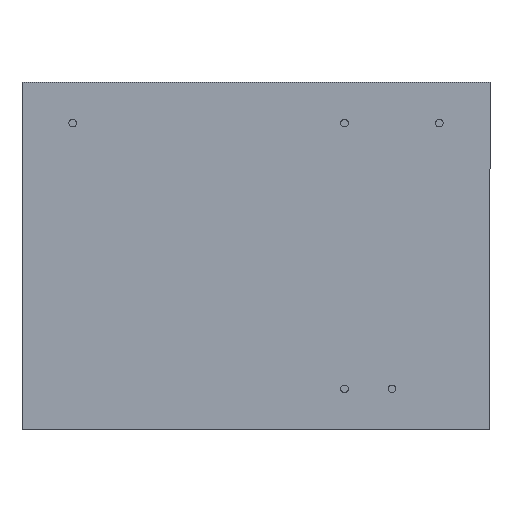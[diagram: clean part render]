
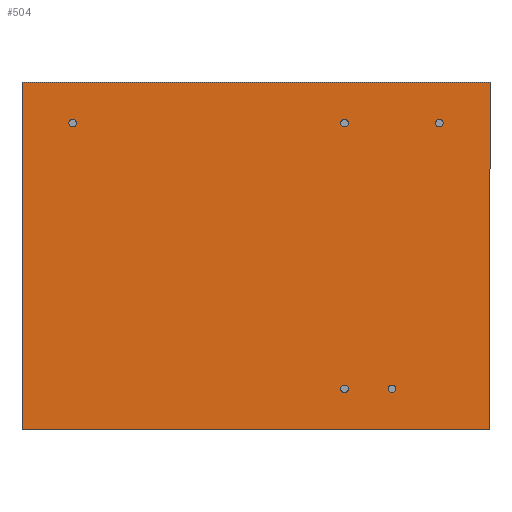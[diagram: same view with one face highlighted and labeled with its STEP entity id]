
A CAD part, front view. The second image highlights one B-rep face of the part: STEP entity #504.
In plain terms, the highlighted planar face has unit normal (0, -1, 0).
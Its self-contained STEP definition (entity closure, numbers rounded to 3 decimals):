
#3 = CARTESIAN_POINT ( 'NONE',  ( -22.544, 0., 10.943 ) ) ;
#5 = ORIENTED_EDGE ( 'NONE', *, *, #826, .F. ) ;
#9 = CIRCLE ( 'NONE', #843, 0.3 ) ;
#19 = VERTEX_POINT ( 'NONE', #327 ) ;
#20 = DIRECTION ( 'NONE',  ( 0., 0., 1. ) ) ;
#30 = VERTEX_POINT ( 'NONE', #545 ) ;
#41 = FACE_BOUND ( 'NONE', #614, .T. ) ;
#53 = EDGE_LOOP ( 'NONE', ( #867, #894 ) ) ;
#56 = CARTESIAN_POINT ( 'NONE',  ( -22.544, 0., 11.243 ) ) ;
#57 = EDGE_CURVE ( 'NONE', #455, #848, #130, .T. ) ;
#62 = CARTESIAN_POINT ( 'NONE',  ( 6.456, 0., 11.543 ) ) ;
#79 = VERTEX_POINT ( 'NONE', #705 ) ;
#82 = DIRECTION ( 'NONE',  ( 0., -1., 0. ) ) ;
#83 = CARTESIAN_POINT ( 'NONE',  ( 2.706, 0., -9.757 ) ) ;
#96 = CARTESIAN_POINT ( 'NONE',  ( -26.544, 0., -13.007 ) ) ;
#103 = CARTESIAN_POINT ( 'NONE',  ( -1.044, 0., -10.057 ) ) ;
#121 = FACE_BOUND ( 'NONE', #684, .T. ) ;
#130 = CIRCLE ( 'NONE', #461, 0.3 ) ;
#135 = DIRECTION ( 'NONE',  ( 0., 0., -1. ) ) ;
#154 = FACE_BOUND ( 'NONE', #407, .T. ) ;
#175 = CARTESIAN_POINT ( 'NONE',  ( -22.544, 0., 11.243 ) ) ;
#176 = VERTEX_POINT ( 'NONE', #62 ) ;
#181 = VECTOR ( 'NONE', #135, 1000. ) ;
#182 = EDGE_CURVE ( 'NONE', #850, #480, #317, .T. ) ;
#196 = VERTEX_POINT ( 'NONE', #351 ) ;
#197 = CIRCLE ( 'NONE', #369, 0.3 ) ;
#202 = EDGE_CURVE ( 'NONE', #279, #79, #197, .T. ) ;
#222 = DIRECTION ( 'NONE',  ( 0., 0., 1. ) ) ;
#223 = DIRECTION ( 'NONE',  ( 0., -1., 0. ) ) ;
#228 = CARTESIAN_POINT ( 'NONE',  ( -26.544, 0., -13.007 ) ) ;
#232 = EDGE_CURVE ( 'NONE', #19, #850, #741, .T. ) ;
#241 = CARTESIAN_POINT ( 'NONE',  ( 10.456, 0., -13.007 ) ) ;
#245 = EDGE_CURVE ( 'NONE', #523, #30, #323, .T. ) ;
#250 = CARTESIAN_POINT ( 'NONE',  ( -1.044, 0., -9.757 ) ) ;
#256 = AXIS2_PLACEMENT_3D ( 'NONE', #498, #82, #349 ) ;
#263 = EDGE_CURVE ( 'NONE', #742, #820, #9, .T. ) ;
#266 = VECTOR ( 'NONE', #775, 1000. ) ;
#273 = DIRECTION ( 'NONE',  ( 0., 0., 1. ) ) ;
#274 = CARTESIAN_POINT ( 'NONE',  ( -1.044, 0., -9.757 ) ) ;
#278 = CARTESIAN_POINT ( 'NONE',  ( -1.044, 0., 11.243 ) ) ;
#279 = VERTEX_POINT ( 'NONE', #771 ) ;
#285 = CARTESIAN_POINT ( 'NONE',  ( 6.456, 0., 11.243 ) ) ;
#305 = CIRCLE ( 'NONE', #348, 0.3 ) ;
#306 = CIRCLE ( 'NONE', #863, 0.3 ) ;
#307 = DIRECTION ( 'NONE',  ( 0., 0., 1. ) ) ;
#314 = ORIENTED_EDGE ( 'NONE', *, *, #382, .F. ) ;
#317 = LINE ( 'NONE', #473, #266 ) ;
#319 = AXIS2_PLACEMENT_3D ( 'NONE', #285, #507, #20 ) ;
#323 = CIRCLE ( 'NONE', #598, 0.3 ) ;
#324 = ORIENTED_EDGE ( 'NONE', *, *, #854, .F. ) ;
#327 = CARTESIAN_POINT ( 'NONE',  ( 10.456, 0., 14.493 ) ) ;
#336 = DIRECTION ( 'NONE',  ( 0., -1., 0. ) ) ;
#346 = DIRECTION ( 'NONE',  ( 0., -1., 0. ) ) ;
#348 = AXIS2_PLACEMENT_3D ( 'NONE', #175, #805, #525 ) ;
#349 = DIRECTION ( 'NONE',  ( 0., 0., 1. ) ) ;
#351 = CARTESIAN_POINT ( 'NONE',  ( -26.544, 0., 14.493 ) ) ;
#361 = DIRECTION ( 'NONE',  ( 0., 0., 1. ) ) ;
#369 = AXIS2_PLACEMENT_3D ( 'NONE', #278, #346, #273 ) ;
#370 = CARTESIAN_POINT ( 'NONE',  ( 2.706, 0., -9.457 ) ) ;
#371 = DIRECTION ( 'NONE',  ( 0., 1., 0. ) ) ;
#382 = EDGE_CURVE ( 'NONE', #176, #811, #541, .T. ) ;
#384 = CIRCLE ( 'NONE', #256, 0.3 ) ;
#386 = ORIENTED_EDGE ( 'NONE', *, *, #202, .F. ) ;
#390 = LINE ( 'NONE', #736, #511 ) ;
#396 = ORIENTED_EDGE ( 'NONE', *, *, #57, .F. ) ;
#403 = ORIENTED_EDGE ( 'NONE', *, *, #795, .F. ) ;
#407 = EDGE_LOOP ( 'NONE', ( #660, #411 ) ) ;
#411 = ORIENTED_EDGE ( 'NONE', *, *, #245, .F. ) ;
#414 = CIRCLE ( 'NONE', #319, 0.3 ) ;
#424 = CARTESIAN_POINT ( 'NONE',  ( 10.456, 0., -13.007 ) ) ;
#431 = DIRECTION ( 'NONE',  ( 0., 0., 1. ) ) ;
#436 = CARTESIAN_POINT ( 'NONE',  ( 6.456, 0., 10.943 ) ) ;
#446 = EDGE_CURVE ( 'NONE', #30, #523, #306, .T. ) ;
#448 = CARTESIAN_POINT ( 'NONE',  ( -22.544, 0., 11.543 ) ) ;
#455 = VERTEX_POINT ( 'NONE', #3 ) ;
#459 = ORIENTED_EDGE ( 'NONE', *, *, #767, .F. ) ;
#461 = AXIS2_PLACEMENT_3D ( 'NONE', #56, #336, #474 ) ;
#473 = CARTESIAN_POINT ( 'NONE',  ( -26.544, 0., -13.007 ) ) ;
#474 = DIRECTION ( 'NONE',  ( 0., 0., 1. ) ) ;
#480 = VERTEX_POINT ( 'NONE', #228 ) ;
#493 = DIRECTION ( 'NONE',  ( 0., 0., 1. ) ) ;
#498 = CARTESIAN_POINT ( 'NONE',  ( -1.044, 0., 11.243 ) ) ;
#504 = ADVANCED_FACE ( 'NONE', ( #121, #41, #522, #154, #692, #574 ), #600, .F. ) ;
#507 = DIRECTION ( 'NONE',  ( 0., -1., 0. ) ) ;
#511 = VECTOR ( 'NONE', #857, 1000. ) ;
#518 = AXIS2_PLACEMENT_3D ( 'NONE', #908, #846, #493 ) ;
#522 = FACE_BOUND ( 'NONE', #872, .T. ) ;
#523 = VERTEX_POINT ( 'NONE', #103 ) ;
#525 = DIRECTION ( 'NONE',  ( 0., 0., 1. ) ) ;
#541 = CIRCLE ( 'NONE', #732, 0.3 ) ;
#545 = CARTESIAN_POINT ( 'NONE',  ( -1.044, 0., -9.457 ) ) ;
#562 = ORIENTED_EDGE ( 'NONE', *, *, #182, .F. ) ;
#574 = FACE_OUTER_BOUND ( 'NONE', #611, .T. ) ;
#578 = CARTESIAN_POINT ( 'NONE',  ( 6.456, 0., 11.243 ) ) ;
#598 = AXIS2_PLACEMENT_3D ( 'NONE', #274, #640, #431 ) ;
#600 = PLANE ( 'NONE',  #904 ) ;
#611 = EDGE_LOOP ( 'NONE', ( #5, #562, #808, #787 ) ) ;
#614 = EDGE_LOOP ( 'NONE', ( #386, #403 ) ) ;
#640 = DIRECTION ( 'NONE',  ( 0., -1., 0. ) ) ;
#647 = DIRECTION ( 'NONE',  ( 0., -1., 0. ) ) ;
#660 = ORIENTED_EDGE ( 'NONE', *, *, #446, .F. ) ;
#672 = CIRCLE ( 'NONE', #518, 0.3 ) ;
#684 = EDGE_LOOP ( 'NONE', ( #324, #396 ) ) ;
#692 = FACE_BOUND ( 'NONE', #53, .T. ) ;
#704 = EDGE_CURVE ( 'NONE', #820, #742, #672, .T. ) ;
#705 = CARTESIAN_POINT ( 'NONE',  ( -1.044, 0., 10.943 ) ) ;
#726 = CARTESIAN_POINT ( 'NONE',  ( 2.706, 0., -10.057 ) ) ;
#732 = AXIS2_PLACEMENT_3D ( 'NONE', #578, #223, #361 ) ;
#736 = CARTESIAN_POINT ( 'NONE',  ( -26.544, 0., 14.493 ) ) ;
#741 = LINE ( 'NONE', #424, #181 ) ;
#742 = VERTEX_POINT ( 'NONE', #726 ) ;
#752 = LINE ( 'NONE', #96, #763 ) ;
#763 = VECTOR ( 'NONE', #807, 1000. ) ;
#767 = EDGE_CURVE ( 'NONE', #811, #176, #414, .T. ) ;
#771 = CARTESIAN_POINT ( 'NONE',  ( -1.044, 0., 11.543 ) ) ;
#775 = DIRECTION ( 'NONE',  ( -1., 0., 0. ) ) ;
#787 = ORIENTED_EDGE ( 'NONE', *, *, #790, .F. ) ;
#790 = EDGE_CURVE ( 'NONE', #196, #19, #390, .T. ) ;
#795 = EDGE_CURVE ( 'NONE', #79, #279, #384, .T. ) ;
#800 = CARTESIAN_POINT ( 'NONE',  ( 0., 0., 0. ) ) ;
#805 = DIRECTION ( 'NONE',  ( 0., -1., 0. ) ) ;
#806 = DIRECTION ( 'NONE',  ( 0., -1., 0. ) ) ;
#807 = DIRECTION ( 'NONE',  ( 0., 0., 1. ) ) ;
#808 = ORIENTED_EDGE ( 'NONE', *, *, #232, .F. ) ;
#811 = VERTEX_POINT ( 'NONE', #436 ) ;
#820 = VERTEX_POINT ( 'NONE', #370 ) ;
#826 = EDGE_CURVE ( 'NONE', #480, #196, #752, .T. ) ;
#843 = AXIS2_PLACEMENT_3D ( 'NONE', #83, #647, #222 ) ;
#846 = DIRECTION ( 'NONE',  ( 0., -1., 0. ) ) ;
#848 = VERTEX_POINT ( 'NONE', #448 ) ;
#850 = VERTEX_POINT ( 'NONE', #241 ) ;
#854 = EDGE_CURVE ( 'NONE', #848, #455, #305, .T. ) ;
#857 = DIRECTION ( 'NONE',  ( 1., 0., 0. ) ) ;
#863 = AXIS2_PLACEMENT_3D ( 'NONE', #250, #806, #307 ) ;
#867 = ORIENTED_EDGE ( 'NONE', *, *, #704, .F. ) ;
#872 = EDGE_LOOP ( 'NONE', ( #314, #459 ) ) ;
#877 = DIRECTION ( 'NONE',  ( 0., 0., 1. ) ) ;
#894 = ORIENTED_EDGE ( 'NONE', *, *, #263, .F. ) ;
#904 = AXIS2_PLACEMENT_3D ( 'NONE', #800, #371, #877 ) ;
#908 = CARTESIAN_POINT ( 'NONE',  ( 2.706, 0., -9.757 ) ) ;
